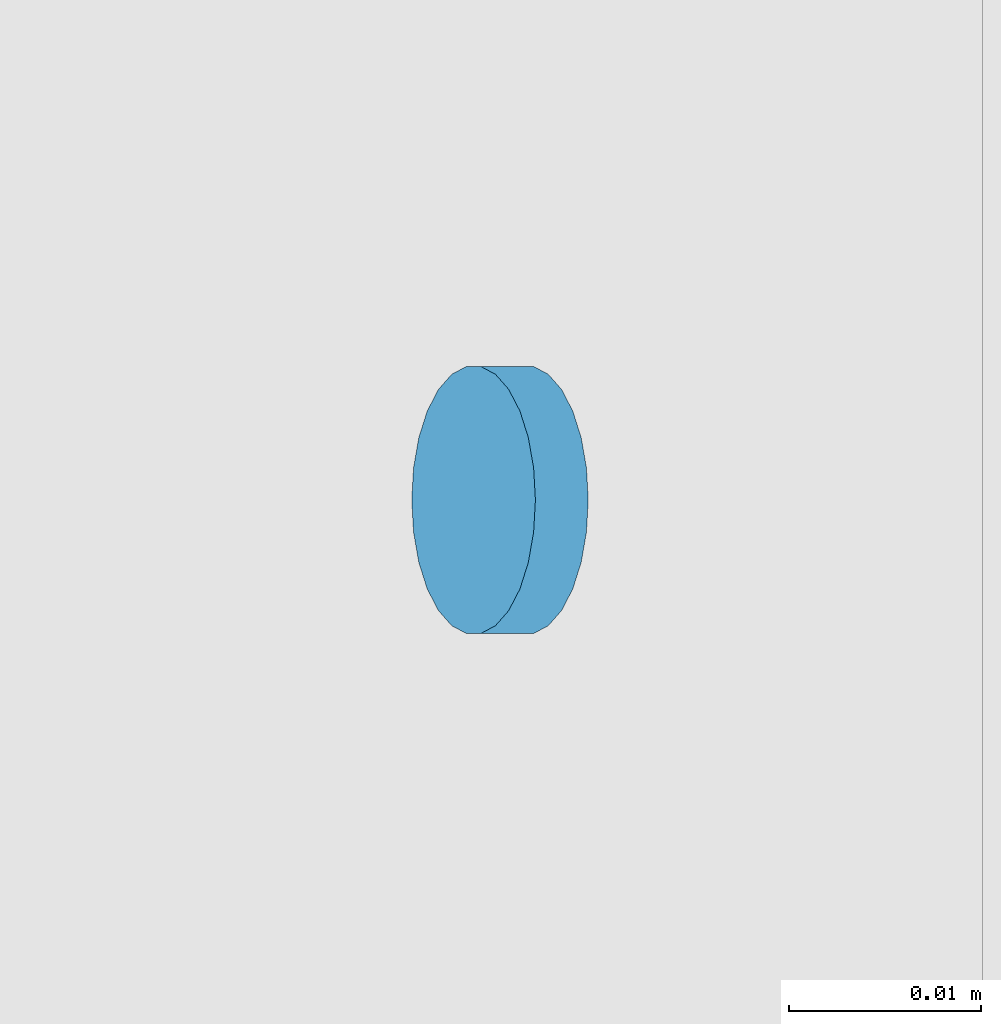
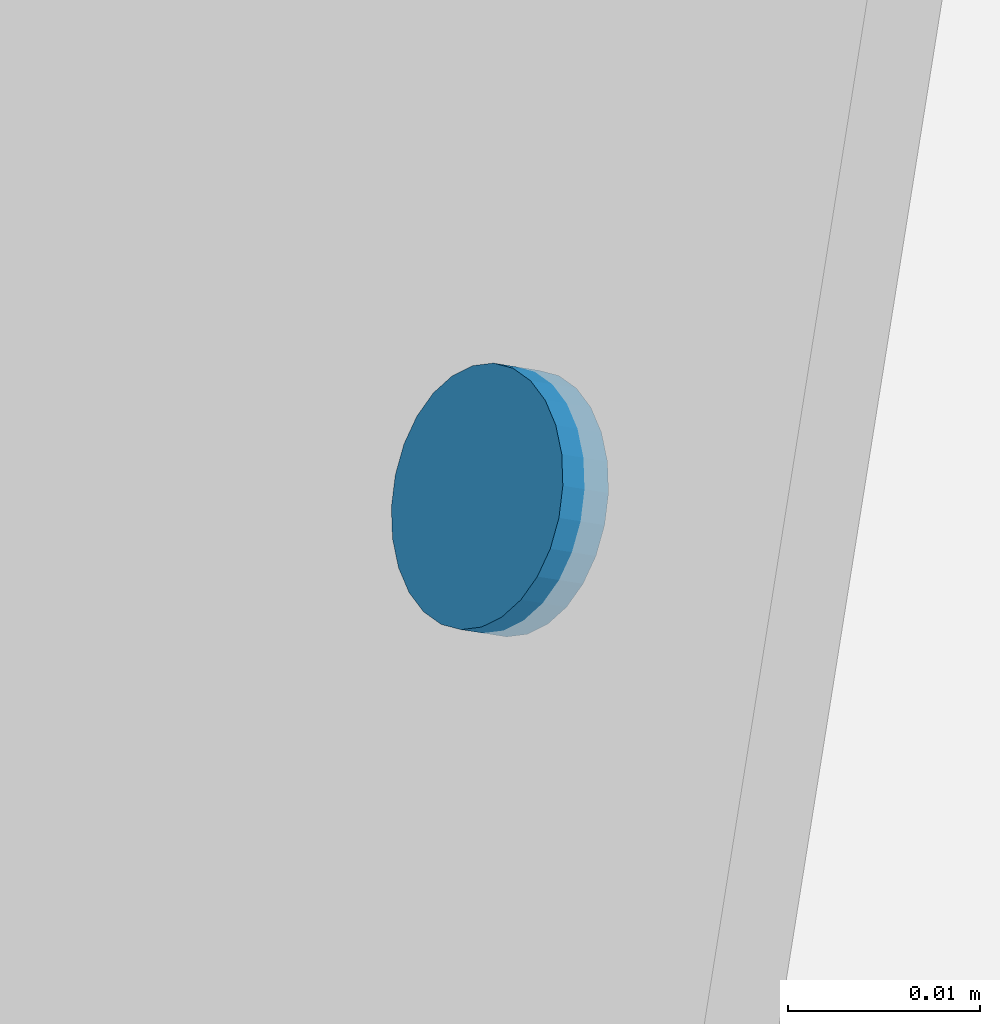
# One storey, part 275 of 362: 1 mechanical fastener.
"""IFC2X3 building model written with IfcOpenShell, lengths in millimetres."""

from ifc_helpers import new_model, si_unit, frame, origin_with_axes, origin_2d_with_axis, place, context, subcontext, project, spatial, circle, extrude, source, transform, mapped, material, type_object, element, save


model = new_model("IFC2X3")

# Units and contexts
model_context = context("Model", 3, precision=1e-05, world=origin_with_axes())
body_context = subcontext(model_context, "Body", "Model", "MODEL_VIEW")
ifc_project = project(units=[si_unit("LENGTHUNIT", "METRE", prefix="MILLI"), si_unit("AREAUNIT", "SQUARE_METRE"), si_unit("VOLUMEUNIT", "CUBIC_METRE"), si_unit("MASSUNIT", "GRAM", prefix="KILO"), si_unit("TIMEUNIT", "SECOND"), si_unit("PLANEANGLEUNIT", "RADIAN"), si_unit("SOLIDANGLEUNIT", "STERADIAN"), si_unit("THERMODYNAMICTEMPERATUREUNIT", "DEGREE_CELSIUS"), si_unit("LUMINOUSINTENSITYUNIT", "LUMEN")], contexts=[model_context])

# Site, building, storey
site_placement = place(None, origin_with_axes())
site = spatial("IfcSite", under=ifc_project, at=site_placement, Name="Undefined", CompositionType="ELEMENT")
building_placement = place(site_placement, origin_with_axes())
building = spatial("IfcBuilding", under=site, at=building_placement, Name="Undefined", CompositionType="ELEMENT")
storey_placement = place(building_placement, origin_with_axes())
storey = spatial("IfcBuildingStorey", under=building, at=storey_placement, Name="Undefined", CompositionType="ELEMENT", Elevation=0.0)

# Mechanical fastener
ifc_material = material(Name="6.8")
mechanical_fastener_type = type_object("IfcMechanicalFastenerType", Name="Bolt assembly")
shared_shape = source(origin_with_axes(), body_context, "Body", "SweptSolid", [
    extrude(circle(Radius=7.0, at=origin_2d_with_axis()), frame((0.0, 0.0, 0.0), z_axis=(0.0, 1.0, 0.0), x_axis=(1.0, 0.0, 0.0)), (0.0, 0.0, 1.0), 3.1),
])
mechanical_fastener_placement = place(storey_placement, frame((28953.4915880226, 1900.00004080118, 8856.57208676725), z_axis=(0.0, -1.0, 0.0), x_axis=(-0.460093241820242, 0.0, -0.887870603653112)))
element("IfcMechanicalFastener", 1, at=mechanical_fastener_placement, inside=storey, type_object=mechanical_fastener_type, material=ifc_material, Name="Bolt assembly", NominalDiameter=12.0, NominalLength=3.0, context=body_context, shape_type="MappedRepresentation", body=[
    mapped(shared_shape, transform((0.0, 0.0, 0.0))),
])

save(model, "model.ifc")
